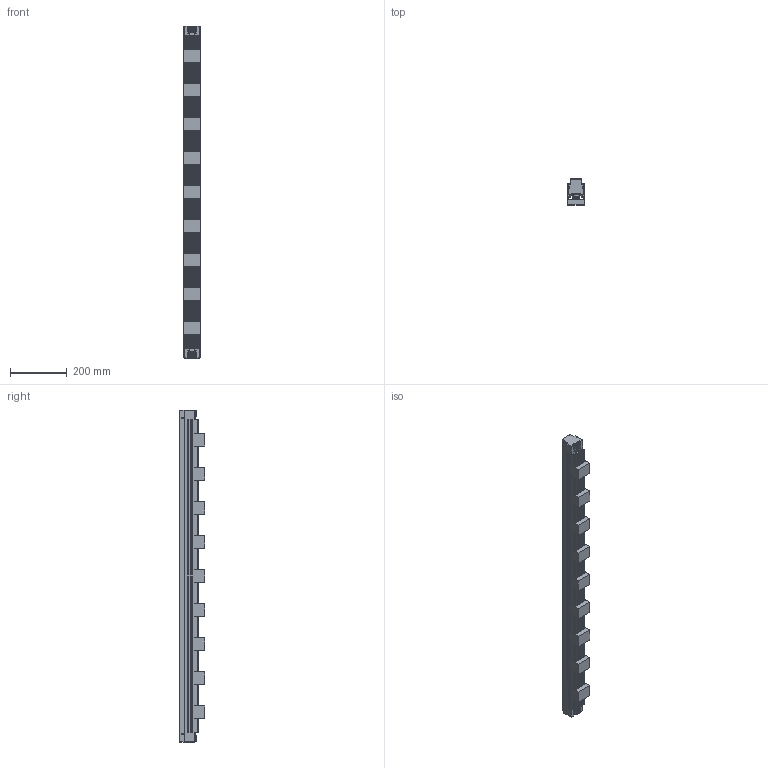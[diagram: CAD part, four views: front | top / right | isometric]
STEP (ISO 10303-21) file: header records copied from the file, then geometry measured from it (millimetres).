
FILE_DESCRIPTION((''),'2;1');
FILE_NAME('MV-LTHS-1100-W','2019-09-19T',('win7'),(''),'PRO/ENGINEER BY PARAMETRIC TECHNOLOGY CORPORATION, 2010100','PRO/ENGINEER BY PARAMETRIC TECHNOLOGY CORPORATION, 2010100','');
FILE_SCHEMA(('CONFIG_CONTROL_DESIGN'));
Length unit declared in the file: millimetre
Products named in the file (1): MV-LTHS-1100-W
Bounding box: 58 x 90.1 x 1170 mm (x, y, z)
Volume: 3822489.9 mm3; surface area: 615875.3 mm2
Topology: 1 solids, 10 shells, 465 faces, 1234 edges, 769 vertices
Faces by surface type: plane 330, cylinder 105, cone 30
Entity records: 14067 total; most frequent: CARTESIAN_POINT 2453, DIRECTION 2378, ORIENTED_EDGE 2376, EDGE_CURVE 1208, VECTOR 968, LINE 968, VERTEX_POINT 769, AXIS2_PLACEMENT_3D 705
